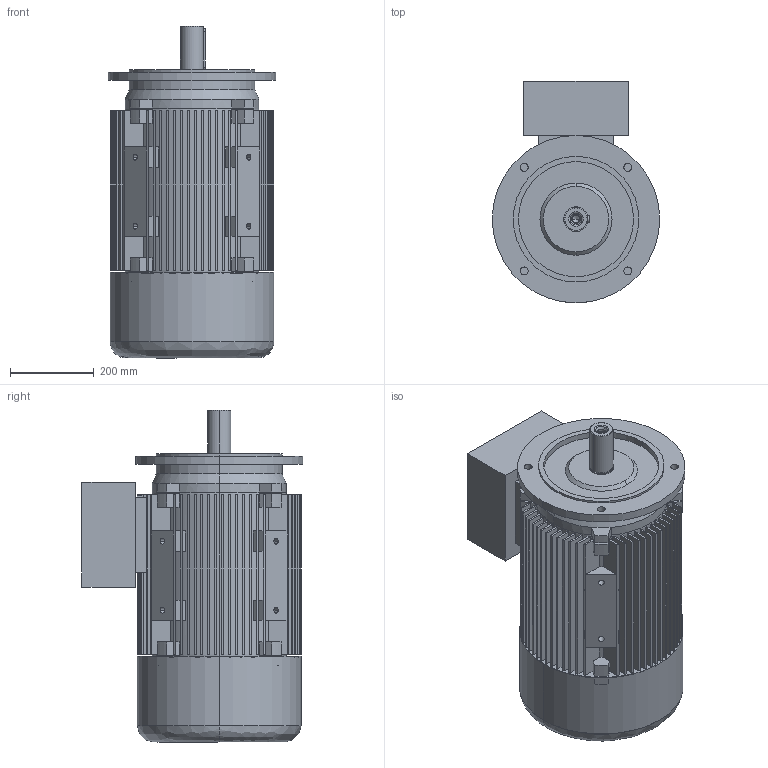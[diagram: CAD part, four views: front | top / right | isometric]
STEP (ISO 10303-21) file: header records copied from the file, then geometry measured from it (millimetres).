
FILE_DESCRIPTION (( 'STEP AP203' ), '1' );
FILE_NAME ('20.18371_B 7AZ 200 B5 STANDK.STEP', '2018-03-30T07:21:07', ( '' ), ( '' ), 'SwSTEP 2.0', 'SolidWorks 2017', '' );
FILE_SCHEMA (( 'CONFIG_CONTROL_DESIGN' ));
Length unit declared in the file: millimetre
Products named in the file (1): 20.18371_B  7AZ 200 B5 STANDK
Bounding box: 400 x 530 x 793 mm (x, y, z)
Volume: 28822715.1 mm3; surface area: 4388490.9 mm2
Topology: 11 solids, 14 shells, 781 faces, 2065 edges, 1350 vertices
Faces by surface type: plane 551, cylinder 179, cone 38, bspline 13
Entity records: 24884 total; most frequent: CARTESIAN_POINT 5084, DIRECTION 4142, ORIENTED_EDGE 4094, EDGE_CURVE 2047, LINE 1406, VECTOR 1406, AXIS2_PLACEMENT_3D 1368, VERTEX_POINT 1350
